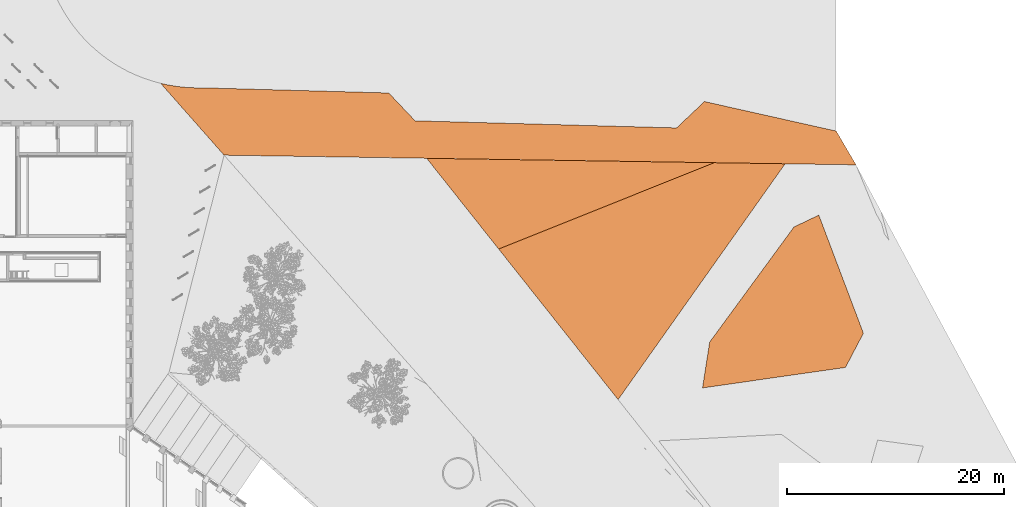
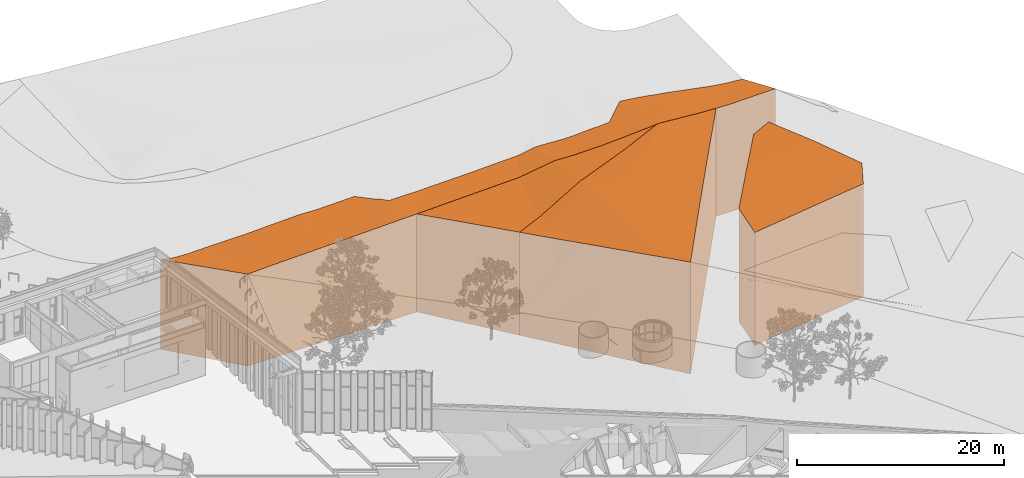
# One storey, part 244 of 246: 4 proxies.
"""IFC2X3 building model written with IfcOpenShell, lengths in millimetres."""

from ifc_helpers import new_model, entity, si_unit, converted_unit, derived_unit, money_unit, direction, frame, origin_with_axes, place, context, subcontext, project, spatial, faceted_brep, material, type_object, element, save


model = new_model("IFC2X3")

# Units and contexts
model_context = context("Model", 3, precision=0.01, world=origin_with_axes(), true_north=direction((0.0, 1.0)))
body_context = subcontext(model_context, "Body", "Model", "MODEL_VIEW")
ifc_project = project(units=[si_unit("LENGTHUNIT", "METRE", prefix="MILLI"), si_unit("AREAUNIT", "SQUARE_METRE"), si_unit("VOLUMEUNIT", "CUBIC_METRE"), converted_unit("PLANEANGLEUNIT", "DEGREE", entity("IfcPlaneAngleMeasure", 0.0174532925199), si_unit("PLANEANGLEUNIT", "RADIAN"), dimensions=[0, 0, 0, 0, 0, 0, 0]), si_unit("SOLIDANGLEUNIT", "STERADIAN"), money_unit("EUR"), converted_unit("TIMEUNIT", "Year", entity("IfcTimeMeasure", 31556926.0), si_unit("TIMEUNIT", "SECOND"), dimensions=[0, 0, 1, 0, 0, 0, 0]), si_unit("MASSUNIT", "GRAM", prefix="KILO"), si_unit("THERMODYNAMICTEMPERATUREUNIT", "DEGREE_CELSIUS"), si_unit("LUMINOUSINTENSITYUNIT", "LUMEN"), si_unit("ENERGYUNIT", "JOULE", prefix="MEGA"), derived_unit("THERMALCONDUCTANCEUNIT", [(si_unit("POWERUNIT", "WATT"), 1), (si_unit("LENGTHUNIT", "METRE"), -1), (si_unit("THERMODYNAMICTEMPERATUREUNIT", "KELVIN"), -1)]), derived_unit("SPECIFICHEATCAPACITYUNIT", [(si_unit("ENERGYUNIT", "JOULE"), 1), (si_unit("MASSUNIT", "GRAM", prefix="KILO"), -1), (si_unit("THERMODYNAMICTEMPERATUREUNIT", "KELVIN"), -1)]), derived_unit("MASSDENSITYUNIT", [(si_unit("MASSUNIT", "GRAM", prefix="KILO"), 1), (si_unit("VOLUMEUNIT", "CUBIC_METRE"), -1)])], contexts=[model_context])

# Site, building, storey
site_placement = place(None, origin_with_axes())
site = spatial("IfcSite", under=ifc_project, at=site_placement, Name="L.Koidula tn 11b", CompositionType="ELEMENT")
building_placement = place(site_placement, origin_with_axes())
building = spatial("IfcBuilding", under=site, at=building_placement, Name="Rakvere Riigigümnaasium", CompositionType="ELEMENT")
storey_placement = place(building_placement, origin_with_axes())
storey = spatial("IfcBuildingStorey", under=building, at=storey_placement, Name="1.korrus 0,00", CompositionType="ELEMENT", Elevation=0.0)

# Proxies
ifc_material_1 = material(Name="Roheala")
building_element_proxy_type_1 = type_object("IfcBuildingElementProxyType", Name="Roheala", PredefinedType="NOTDEFINED")
proxy_1_placement = place(storey_placement, frame((81352.3517408, 46387.082297, -10000.0), z_axis=(0.0, 0.0, 1.0), x_axis=(1.0, 0.0, 0.0)))
element("IfcBuildingElementProxy", 1, at=proxy_1_placement, inside=storey, type_object=building_element_proxy_type_1, material=ifc_material_1, Name="Planeeritav väljak", context=body_context, shape_type="Brep", body=[
    faceted_brep([(24817.0227167, 21771.5365046, 12791.3238978), (24832.7831979, 21771.2958002, 12791.3788711), (26421.0074362, 21747.039401, 12725.4210918), (26421.0074362, 21747.039401, 0.0), (19877.4108248, 21846.9774877, 0.0), (19877.4108248, 21846.9774877, 13082.2895138), (20107.199844, 21843.4679995, 13100.0), (20319.7864489, 21840.2212378, 13100.0), (21485.7311887, 21822.4141673, 13021.3035545), (21614.208879, 21820.451972, 13000.0), (21754.544851, 21818.3086693, 12994.2397047), (23158.0924196, 21796.8727729, 12900.0), (23197.3719018, 21796.272871, 12895.7831296), (24625.3115576, 21774.4644428, 12800.0), (24700.8339045, 21773.3110161, 12796.6667634), (24701.1256573, 21773.3065603, 12796.6546725), (24780.6877061, 21772.0914366, 12792.9682792), (24709.0430621, 21645.8113757, 12800.0), (25494.9763437, 20439.940022, 12800.0), (11026.6034065, 17.7301909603, 13173.0007679), (11014.0422284, 0.0, 13173.0000895), (11014.0422284, 0.0, 0.0), (25173.5693245, 19986.2717612, 12800.0), (24879.0692387, 19570.5828255, 12827.7368533), (24045.0707522, 18393.3881151, 12900.0), (22890.957591, 16764.3492972, 13000.0), (22514.9264319, 16233.5786799, 13007.8099496), (21448.928404, 14728.9149903, 13100.0), (20384.2060726, 13226.0519554, 13192.0797251), (20182.0431377, 12940.6975556, 13200.0), (17112.6279595, 8608.19651351, 13293.0741582), (11468.1950363, 641.039872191, 13200.0), (11260.7541777, 348.235645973, 13192.4527921), (11180.9250068, 235.556211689, 13182.419628), (11180.6552888, 235.175502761, 13182.4196115), (0.0, 13882.6827317, 0.0), (15879.9154482, 20245.298489, 12899.4842046), (0.0, 13882.6827317, 12137.6743215), (986.945373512, 14278.1227581, 12194.7497163), (2815.9967111, 15010.9699134, 12242.9709722), (8072.89543194, 17117.2548458, 12894.8586139), (8181.84884758, 17160.9092797, 12907.4463189), (8800.68938347, 17408.8605082, 12990.5254148), (9392.15141564, 17645.8419744, 12954.4755052), (15158.8966718, 19956.4074403, 12879.2687468), (15671.5027519, 20161.7936423, 12901.4294702), (15775.6508948, 20203.5227446, 12906.5554608), (16264.3383343, 17971.6247354, 13100.0), (20253.2900197, 21688.5161431, 13100.0), (21738.5410339, 21674.2812207, 13000.0), (23223.792048, 21660.0462982, 12900.0), (10055.8268898, 1239.79619194, 13100.0), (10043.8552271, 1222.87513067, 13100.0), (1924.5992945, 11456.8157487, 12300.0), (10041.6006853, 1225.71687468, 13099.8303608), (9023.24925963, 2509.30099928, 13000.0), (9013.12812807, 2522.05821006, 12999.3813461), (8000.26516354, 3798.72438727, 12900.0), (6981.28109457, 5083.10592901, 12800.0), (3840.84718326, 9041.47532023, 12500.0), (3840.41967287, 9042.01417698, 12499.8438142), (23651.3108503, 20132.7173927, 12900.0), (21952.300435, 20910.6167679, 13000.0), (22225.3377553, 19704.5472758, 13000.0), (12541.9162677, 14627.0202839, 13200.0), (9302.83631677, 4358.24161487, 13100.0), (10057.3598131, 1241.96286615, 13100.0), (2402.10851391, 13378.3271831, 12300.0), (8873.76940749, 16005.5211832, 13100.0), (9036.05837589, 2525.96926186, 13000.0), (8013.6485399, 3808.27047661, 12900.0), (6990.62101586, 5089.76790433, 12800.0), (3842.55472843, 9042.69330696, 12500.0)], [[[0, 1, 2, 3, 4, 5, 6, 7, 8, 9, 10, 11, 12, 13, 14, 15, 16]], [[1, 0, 17]], [[18, 2, 1, 17]], [[19, 20, 21, 3, 2, 18, 22, 23, 24, 25, 26, 27, 28, 29, 30, 31, 32, 33, 34]], [[21, 35, 4, 3]], [[36, 5, 4, 35, 37, 38, 39, 40, 41, 42, 43, 44, 45, 46]], [[6, 5, 36, 47]], [[7, 6, 47, 48]], [[8, 7, 48, 49]], [[9, 8, 49]], [[10, 9, 49]], [[11, 10, 49, 50]], [[12, 11, 50]], [[13, 12, 50, 17]], [[14, 13, 17]], [[15, 14, 17]], [[16, 15, 17]], [[0, 16, 17]], [[22, 18, 17]], [[20, 19, 51, 52]], [[53, 37, 35, 21, 20, 52, 54, 55, 56, 57, 58, 59, 60]], [[23, 22, 17, 50, 61]], [[24, 23, 61]], [[25, 24, 61, 62, 63]], [[26, 25, 63, 47]], [[27, 26, 47]], [[28, 27, 47]], [[29, 28, 47, 64]], [[30, 29, 64]], [[31, 30, 64]], [[32, 31, 64, 65]], [[33, 32, 65, 66]], [[34, 33, 66, 51]], [[19, 34, 51]], [[37, 53, 67, 38]], [[39, 38, 67]], [[40, 39, 67, 68]], [[41, 40, 68]], [[42, 41, 68]], [[43, 42, 68]], [[44, 43, 68, 47]], [[45, 44, 47]], [[46, 45, 47]], [[36, 46, 47]], [[47, 63, 48]], [[49, 48, 62]], [[49, 62, 61, 50]], [[54, 52, 51]], [[55, 54, 51, 69]], [[56, 55, 69]], [[57, 56, 69, 70]], [[58, 57, 70, 71]], [[59, 58, 71, 72]], [[60, 59, 72]], [[53, 60, 72, 67]], [[63, 62, 48]], [[64, 47, 68]], [[65, 64, 68]], [[65, 69, 66]], [[51, 66, 69]], [[65, 68, 67]], [[69, 65, 70]], [[70, 65, 71]], [[72, 71, 65]], [[67, 72, 65]]]),
])
proxy_2_placement = place(storey_placement, frame((100148.798622, 47463.1643258, -10000.0), z_axis=(0.0, 0.0, 1.0), x_axis=(1.0, 0.0, 0.0)))
element("IfcBuildingElementProxy", 2, at=proxy_2_placement, inside=storey, type_object=building_element_proxy_type_1, material=ifc_material_1, Name="Planeeritav väljak", context=body_context, shape_type="Brep", body=[
    faceted_brep([(12101.444684, 12301.5175342, 13100.0), (12808.3644976, 10430.0033075, 13200.0), (14841.9690642, 5046.19621206, 13229.6136489), (14841.9690642, 5046.19621206, 0.0), (10727.410028, 15939.1655149, 0.0), (10727.410028, 15939.1655149, 12905.6294669), (11394.5248784, 14173.0317643, 13000.0), (5906.51228041, 11392.5772117, 13100.0), (13186.7066089, 1887.87377253, 13274.7696108), (11151.7054574, 1596.53299922, 13297.2963122), (13186.7066089, 1887.87377253, 0.0), (0.0, 0.0, 0.0), (661.595976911, 4229.07128651, 0.0), (8431.79274257, 14841.6048484, 0.0), (8431.79274257, 14841.6048484, 12913.3669328), (8396.57258667, 14793.5011648, 12914.9343826), (7088.20316813, 13006.5304407, 13000.0), (4724.82139851, 9778.62397782, 13200.0), (10942.495054, 1566.58140894, 13297.4427405), (686.188280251, 98.2380889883, 13300.0), (0.0, 0.0, 13291.4466792), (10709.9738192, 1533.29252538, 13300.0), (250.137492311, 1598.93548832, 13300.0), (661.595976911, 4229.07128651, 13300.0), (1719.29266997, 5673.67326917, 13300.0)], [[[0, 1, 2, 3, 4, 5, 6]], [[0, 7, 1]], [[8, 2, 1, 9]], [[2, 8, 10, 3]], [[3, 10, 11, 12, 13, 4]], [[14, 5, 4, 13]], [[6, 5, 14, 15]], [[0, 6, 16]], [[7, 0, 16]], [[1, 7, 17]], [[18, 9, 1, 17]], [[19, 20, 11, 10, 8, 9, 18, 21]], [[22, 23, 12, 11, 20]], [[15, 14, 13, 12, 23, 24, 17, 7, 16]], [[15, 16, 6]], [[21, 18, 17, 24]], [[20, 19, 22]], [[19, 21, 24, 23, 22]]]),
])
ifc_material_2 = material(Name="Sillutiskivi-2")
building_element_proxy_type_2 = type_object("IfcBuildingElementProxyType", Name="Sillutiskivi-2", PredefinedType="NOTDEFINED")
proxy_3_placement = place(storey_placement, frame((50173.2671368, 68034.3388245, -10000.0), z_axis=(0.0, 0.0, 1.0), x_axis=(1.0, 0.0, 0.0)))
element("IfcBuildingElementProxy", 3, at=proxy_3_placement, inside=storey, type_object=building_element_proxy_type_2, material=ifc_material_2, Name="Väljak", context=body_context, shape_type="Brep", body=[
    faceted_brep([(2824.69924275, 4327.15722616, 10699.3799152), (3043.49043374, 4079.37487725, 10708.0756723), (5182.92692048, 4079.32841576, 10709.0082275), (4994.51219159, 7076.73305954, 10604.8859857), (4882.8206809, 7079.82902056, 10604.7299237), (2766.84917014, 4392.67278377, 10693.9130267), (329.42707321, 7153.06807095, 10594.9400707), (313.308466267, 7171.32249094, 10595.4462081), (313.282985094, 7171.35134852, 10595.4476806), (313.270529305, 7171.36545478, 10595.4484042), (292.601942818, 7194.77275416, 10596.1602108), (286.251026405, 7201.96520546, 10596.3801947), (0.0, 7526.14622656, 10572.5772275), (0.0, 7526.14622656, 0.0), (5855.92086401, 894.28038129, 0.0), (5855.92086401, 894.28038129, 10809.8860905), (5358.70308264, 1457.38253012, 10800.4663736), (5356.12070789, 1460.30708517, 10800.3117106), (5346.90035982, 1470.7491852, 10799.6236599), (4428.14055666, 2511.25022681, 10766.5567717), (8658.13641798, 6975.18158325, 10700.4100973), (8848.15351857, 6969.9145264, 10709.3233122), (8854.19220773, 6969.74714084, 10709.6970087), (8862.77811026, 6969.50914943, 10709.9024582), (9118.73371737, 6962.41435254, 10720.1613628), (15025.377955, 6798.68892515, 11048.9227947), (16702.068801, 6752.21297125, 11005.2010396), (19282.2414091, 6680.6935355, 11099.022593), (19304.3818493, 6680.07982781, 11099.9434935), (19306.8888887, 6680.01028463, 11100.0184497), (19307.2151746, 6680.00129127, 11100.028254), (21041.2844853, 6631.9348719, 11186.7269787), (21041.2844853, 6631.9348719, 0.0), (3804.6752208, 7109.71398047, 0.0), (3804.6752208, 7109.71398047, 10570.5938406), (1353.45980196, 7054.30598368, 10500.0), (3631.52823974, 7105.89032096, 10565.6021589), (3245.72334146, 7107.45955747, 10553.9058719), (2860.09046149, 7119.08555972, 10541.6427419), (2831.75889162, 7120.67975745, 10540.6997037), (1215.63723811, 7283.52288787, 10500.0), (943.665945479, 7327.55168475, 10524.1617118), (835.986376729, 7347.87746884, 10533.5566323), (834.949453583, 7348.07320027, 10533.6569019), (834.443476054, 7348.16870948, 10533.7058836), (564.552830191, 7399.11374074, 10557.5431912), (408.551066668, 7432.79478979, 10571.0798607), (349.87374539, 7445.46332438, 10576.1797607), (187.434056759, 7480.53433253, 10574.7001234), (187.434056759, 7480.53433253, 0.0), (564.552830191, 7399.11374074, 0.0), (943.665945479, 7327.55168475, 0.0), (1324.51572906, 7265.89680346, 0.0), (1706.84332701, 7214.19100213, 0.0), (2090.38888095, 7172.46942388, 0.0), (2474.89170471, 7140.76042581, 0.0), (2860.09046149, 7119.08555972, 0.0), (3245.72334146, 7107.45955747, 0.0), (3631.52823974, 7105.89032096, 0.0), (23472.59543, 4065.08328021, 0.0), (47587.9940034, 3411.11960076, 0.0), (50154.8455956, 5842.43054502, 0.0), (62307.6972974, 3118.76461562, 0.0), (64133.5258371, 0.0, 0.0), (64133.5258371, 0.0, 12800.0512487), (64133.3863867, 0.00213989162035, 12800.0), (63594.4943606, 8.27153543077, 12800.0), (58964.6645633, 79.3171104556, 12670.7840627), (58946.7357328, 79.5922316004, 12669.4856896), (56012.4399934, 124.61953006, 12791.3390058), (55996.607607, 124.862480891, 12791.2837), (55960.1057398, 125.42260864, 12792.935554), (55880.1730538, 126.649190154, 12796.6389513), (55879.8799286, 126.653688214, 12796.6510984), (55803.9990377, 127.818094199, 12800.0), (54376.3188528, 149.726104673, 12895.7611591), (54336.8333333, 150.332017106, 12900.0), (52933.7195604, 171.863051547, 12994.2072729), (52792.5846412, 174.02879239, 13000.0), (52663.3580512, 176.011797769, 13021.4263942), (51499.2700306, 193.874938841, 13100.0), (51287.1953689, 197.129262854, 13100.0), (46776.9314504, 266.340077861, 12752.3566217), (46579.6417051, 269.36752466, 12758.0764121), (46374.7382347, 272.511805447, 12742.0436052), (45234.7274247, 290.005477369, 12658.9743492), (41943.3922563, 340.511610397, 12569.2724312), (39739.5625818, 374.329775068, 12630.6863981), (36419.5380687, 425.276151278, 12088.8891879), (35819.8863523, 434.477915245, 12000.0), (35636.7174489, 437.288675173, 11990.5634167), (31023.4719624, 508.079760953, 11808.6695332), (28705.1796028, 543.654376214, 11715.898017), (23475.4722808, 623.905180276, 11503.4345727), (23409.7444184, 624.913786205, 11500.3196563), (23401.7681396, 625.036183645, 11500.0), (23167.4887576, 628.631243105, 11494.7405649), (23071.9398015, 630.097459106, 11491.8456834), (22537.4952236, 638.298607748, 11471.2033544), (20707.9078429, 666.37395678, 11400.4165283), (20704.7739551, 666.422046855, 11400.4165283), (20693.4287884, 666.596140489, 11400.1019881), (20566.9379754, 668.537164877, 11391.8613309), (20281.2105921, 672.921703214, 11384.2552166), (19936.15607, 678.21662722, 11370.9578206), (12926.2419541, 785.785026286, 11100.0), (12905.0875347, 786.109644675, 11100.0), (12607.7307427, 790.672638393, 11088.5627633), (12584.426248, 791.030250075, 11087.5916777), (8225.97074734, 857.911537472, 10935.4821426), (7766.76384104, 864.958150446, 10902.9874801), (7701.87227749, 865.953923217, 10900.0), (7688.31785527, 866.161918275, 10900.0), (7671.19647491, 866.424648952, 10900.0), (7416.12299176, 870.338797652, 10883.7306417), (7732.30349249, 916.828156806, 10900.0), (8087.09040987, 1585.589461, 10900.0), (9337.29447655, 4079.23819662, 10897.279658), (9448.86337448, 4152.48530883, 10900.0), (9644.43031611, 4079.23152664, 10908.9440352), (14673.5614631, 4119.69258888, 11100.0), (19306.6106086, 6678.56199384, 11100.0), (21041.5705368, 6631.63287359, 11186.7416789), (21297.0995077, 6361.85868153, 11206.4398287), (22228.3519925, 5378.69076219, 11278.2188094), (22441.7776827, 5153.3670232, 11296.7106511), (22570.4467634, 5017.52490264, 11317.6445915), (22865.0961584, 4706.44940226, 11400.4022622), (22865.2353802, 4706.30241912, 11400.4165283), (22903.2087154, 4666.21214765, 11401.7432173), (23255.8697902, 4293.89093424, 11404.6805886), (23270.9675877, 4277.95146519, 11406.8017481), (23459.478446, 4078.93150943, 11421.1977988), (23472.59543, 4065.08328021, 11421.8086667), (2474.89170471, 7140.76042581, 10531.5455734), (2090.38888095, 7172.46942388, 10521.8697503), (1717.84806876, 7212.99392087, 10512.6771023), (1215.78312792, 7283.49927011, 10500.0), (1324.51572906, 7265.89680346, 10502.6872743), (1661.44727888, 7220.33034195, 10511.1620322), (1706.84332701, 7214.19100213, 10512.3782014), (26913.7570586, 3971.76553083, 11500.0), (27035.9610547, 3968.4515912, 11504.9569761), (28039.301916, 3941.24289799, 11553.0874841), (28247.8957853, 3935.58622954, 11561.6602941), (31814.8378915, 3838.85755317, 11706.0857039), (32128.6547901, 3830.34743657, 11718.6069281), (37556.7503043, 3683.14784389, 12000.0), (37679.6694719, 3679.81449079, 12008.2851557), (38780.6661173, 3649.95755871, 12231.9583232), (39383.9932339, 3633.5964764, 12346.3017639), (39570.0964614, 3628.54971132, 12376.8245052), (42953.4980381, 3536.79830454, 12285.7071622), (43433.6505139, 3523.77748389, 12299.3407501), (45509.9252074, 3467.47286864, 12452.3741149), (45881.6042891, 3457.39363984, 12481.7617058), (46239.0408195, 3447.70064191, 12471.791724), (47037.6364728, 3426.04424879, 12534.0545622), (47587.9940034, 3411.11960076, 12578.744897), (48292.4657151, 4078.39221898, 12587.4320604), (50154.8455956, 5842.43054502, 12666.3022844), (50370.6410799, 5794.06701497, 12685.2978747), (51718.8888728, 5491.90118033, 12737.4847147), (51810.9749613, 5471.26308254, 12734.9449685), (52814.9727405, 5246.24967733, 12743.1245017), (53487.5313173, 5095.51757542, 12710.3391029), (53946.8479918, 4992.57670132, 12696.218789), (54406.8638074, 4889.47913749, 12714.9859763), (55229.3959974, 4705.13533435, 12685.1293915), (55739.2562096, 4590.86677232, 12670.0440412), (55746.2248717, 4589.30497363, 12669.808641), (56132.9063812, 4502.64290628, 12655.482569), (58026.8335048, 4078.18082067, 12581.0584193), (58182.8538409, 4043.21394342, 12574.7790633), (59171.5875348, 3821.62148583, 12536.1759155), (59570.0016411, 3732.32993898, 12543.4792695), (59814.4018642, 3677.55558829, 12534.7249411), (59849.0669343, 3669.78654178, 12537.6313091), (60556.20914, 3511.30364574, 12563.8326536), (60786.7116632, 3459.64401189, 12578.6500855), (60908.9314021, 3432.25243773, 12587.3571492), (62307.6972974, 3118.76461562, 12693.3997225), (63359.6821165, 1321.83080799, 12756.2054956), (63908.6916247, 384.047554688, 12792.3189344), (63916.0365649, 371.501393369, 12792.8506305), (63986.0983311, 251.8263239, 12800.0), (64133.0601508, 0.795455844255, 12800.0), (55634.7811427, 4078.23276815, 12692.9539277), (55626.4722322, 4078.23294859, 12693.3019212), (55625.4546059, 4078.23297069, 12693.3445414), (53776.3421878, 3243.3034061, 12800.0), (53195.4554421, 2527.37305826, 12900.0), (52021.522394, 1080.52597369, 13000.0), (51730.9229925, 722.368497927, 13100.0), (51383.424511, 294.084137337, 13100.0), (36100.124509, 958.641751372, 12000.0), (37418.9821654, 3425.46317641, 12000.0), (23280.9904104, 4078.9353856, 11417.254258), (22086.9903006, 3272.37963134, 11400.4165283), (21007.8066057, 1237.7437768, 11400.4165283), (20119.4217339, 4079.00404443, 11243.5354285), (14762.7352729, 4079.12037396, 11104.2292784), (13821.9888832, 2514.43758558, 11100.0), (7750.03585274, 916.22772262, 10900.0), (22500.906442, 4078.95232645, 11399.5065037), (22510.6120329, 4071.05363782, 11400.4165283), (50971.5632926, 4078.33403783, 12799.8497179), (52363.8347225, 4078.3038023, 12797.0348172), (53231.8151363, 4078.28495263, 12749.8309066), (53899.594535, 4078.27045067, 12765.5453683), (54999.1299211, 4078.24657239, 12717.0699284), (54999.1768239, 4078.24657137, 12717.0678606)], [[[0, 1, 2, 3, 4]], [[0, 5, 6, 7, 8, 9, 10, 11, 12, 13, 14, 15, 16, 17, 18, 19, 1]], [[1, 19, 2]], [[3, 2, 20]], [[4, 3, 20, 21, 22, 23, 24, 25, 26, 27, 28, 29, 30, 31, 32, 33, 34]], [[35, 5, 0, 4, 34, 36, 37, 38, 39]], [[5, 35, 6]], [[35, 40, 41, 42, 7, 6]], [[8, 7, 42, 43]], [[9, 8, 43, 44]], [[10, 9, 44, 45, 46]], [[11, 10, 46, 47]], [[48, 12, 11, 47]], [[49, 13, 12, 48]], [[14, 13, 49, 50, 51, 52, 53, 54, 55, 56, 57, 58, 33, 32, 59, 60, 61, 62, 63]], [[15, 14, 63, 64, 65, 66, 67, 68, 69, 70, 71, 72, 73, 74, 75, 76, 77, 78, 79, 80, 81, 82, 83, 84, 85, 86, 87, 88, 89, 90, 91, 92, 93, 94, 95, 96, 97, 98, 99, 100, 101, 102, 103, 104, 105, 106, 107, 108, 109, 110, 111, 112, 113, 114]], [[15, 114, 115, 16]], [[17, 16, 115, 116]], [[2, 18, 17, 116]], [[2, 19, 18]], [[2, 117, 21, 20]], [[117, 118, 22, 21]], [[118, 119, 23, 22]], [[119, 120, 24, 23]], [[25, 24, 120]], [[120, 26, 25]], [[120, 121, 27, 26]], [[28, 27, 121]], [[28, 121, 29]], [[121, 30, 29]], [[121, 122, 31, 30]], [[59, 32, 31, 122, 123, 124, 125, 126, 127, 128, 129, 130, 131, 132, 133]], [[33, 58, 36, 34]], [[58, 57, 37, 36]], [[57, 56, 38, 37]], [[56, 55, 134, 39, 38]], [[35, 39, 134, 135, 136]], [[35, 137, 40]], [[40, 137, 138, 52, 51, 41]], [[51, 50, 45, 44, 43, 42, 41]], [[50, 49, 48, 47, 46, 45]], [[53, 52, 138, 139, 140]], [[54, 53, 140, 136, 135]], [[55, 54, 135, 134]], [[60, 59, 133, 141, 142, 143, 144, 145, 146, 147, 148, 149, 150, 151, 152, 153, 154, 155, 156, 157, 158]], [[61, 60, 158, 159, 160]], [[61, 160, 161, 162, 163, 164, 165, 166, 167, 168, 169, 170, 171, 172, 173, 174, 175, 176, 177, 178, 179, 180, 181, 62]], [[64, 63, 62, 181, 182, 183, 184, 185, 186]], [[186, 65, 64]], [[65, 186, 185, 66]], [[67, 66, 185, 184, 178, 177]], [[68, 67, 177, 176]], [[69, 68, 176, 175]], [[70, 69, 175, 174]], [[71, 70, 174, 173]], [[72, 71, 173, 172, 187]], [[73, 72, 187, 188, 189]], [[74, 73, 189, 190]], [[75, 74, 190]], [[76, 75, 190, 191]], [[77, 76, 191]], [[78, 77, 191, 192]], [[79, 78, 192, 193]], [[193, 80, 79]], [[194, 81, 80, 193]], [[82, 81, 194, 157, 156]], [[83, 82, 156, 155]], [[84, 83, 155, 154]], [[85, 84, 154, 153]], [[86, 85, 153, 152]], [[87, 86, 152, 151]], [[88, 87, 151, 150, 195]], [[195, 89, 88]], [[90, 89, 195, 196, 147, 146]], [[91, 90, 146, 145]], [[92, 91, 145, 144]], [[93, 92, 144, 143]], [[94, 93, 143, 142]], [[95, 94, 142, 141]], [[96, 95, 141, 133, 132, 197]], [[198, 97, 96, 197]], [[199, 98, 97, 198]], [[199, 99, 98]], [[100, 99, 199]], [[101, 100, 199]], [[102, 101, 199, 200]], [[103, 102, 200, 201]], [[104, 103, 201, 202]], [[105, 104, 202]], [[106, 105, 202]], [[107, 106, 202, 120, 119, 118, 116]], [[108, 107, 116]], [[109, 108, 116]], [[110, 109, 116, 203]], [[203, 111, 110]], [[112, 111, 203]], [[113, 112, 203, 116, 115]], [[114, 113, 115]], [[2, 116, 117]], [[116, 118, 117]], [[121, 120, 201, 200]], [[122, 121, 123]], [[123, 121, 124]], [[121, 200, 125, 124]], [[200, 204, 126, 125]], [[126, 204, 127]], [[127, 204, 205, 128]], [[128, 205, 197, 129]], [[130, 129, 197]], [[130, 197, 131]], [[132, 131, 197]], [[139, 35, 136, 140]], [[137, 35, 139, 138]], [[147, 196, 148]], [[196, 149, 148]], [[196, 195, 150, 149]], [[157, 194, 206, 159, 158]], [[159, 206, 161, 160]], [[161, 206, 162]], [[162, 206, 163]], [[164, 163, 206, 207]], [[165, 164, 207, 208]], [[166, 165, 208]], [[208, 209, 167, 166]], [[210, 211, 168, 167, 209, 190]], [[211, 189, 188, 169, 168]], [[188, 187, 170, 169]], [[171, 170, 187]], [[187, 172, 171]], [[178, 184, 183, 179]], [[183, 182, 180, 179]], [[182, 181, 180]], [[211, 210, 190, 189]], [[191, 190, 208, 207]], [[206, 192, 191, 207]], [[206, 193, 192]], [[194, 193, 206]], [[205, 198, 197]], [[200, 199, 198, 205, 204]], [[120, 202, 201]], [[208, 190, 209]]]),
])
ifc_material_3 = material(Name="Sillutiskivi-3")
building_element_proxy_type_3 = type_object("IfcBuildingElementProxyType", Name="Sillutiskivi-3", PredefinedType="NOTDEFINED")
proxy_4_placement = place(storey_placement, frame((74712.4497369, 60269.7650286, -10000.0), z_axis=(0.0, 0.0, 1.0), x_axis=(1.0, 0.0, 0.0)))
element("IfcBuildingElementProxy", 4, at=proxy_4_placement, inside=storey, type_object=building_element_proxy_type_3, material=ifc_material_3, Name="Planeeritav väljak", context=body_context, shape_type="Brep", body=[
    faceted_brep([(22040.738799, 8032.66392205, 12758.1871276), (22237.9622368, 8029.65179674, 12752.4679245), (26517.3128287, 7964.294756, 13082.2895138), (26517.3128287, 7964.294756, 0.0), (0.0, 8369.28449862, 0.0), (0.0, 8369.28449862, 11546.7642331), (4166.34412548, 8305.65336653, 11716.0150984), (6483.72087998, 8270.26087328, 11808.7432249), (11099.7059645, 8199.76253043, 11990.7317287), (11279.6147655, 8197.01484557, 12000.0), (11881.5703006, 8187.82138699, 12089.227262), (15200.4721884, 8137.13294695, 12630.8245246), (17403.7034956, 8103.48375761, 12569.4145248), (20696.3147799, 8053.19684486, 12659.1280915), (21835.9057147, 8035.79226687, 12742.1608647), (22415.5528987, 6320.84001289, 12906.5554608), (22519.8174521, 6362.61575738, 12899.4842046), (7626.84737739, 395.44002647, 12194.7497163), (6639.90200388, 0.0, 12137.6743215), (6639.90200388, 0.0, 0.0), (22311.4047557, 6279.11091064, 12901.4294702), (21798.7986757, 6073.72470864, 12879.2687468), (16032.0534195, 3763.15924274, 12954.4755052), (15440.5913874, 3526.17777656, 12990.5254148), (14821.7508515, 3278.22654799, 12907.4463189), (14712.7974358, 3234.5721141, 12894.8586139), (9455.89871498, 1128.28718171, 12242.9709722), (4995.80440091, 2072.30778025, 11999.0217274), (5010.72780693, 2053.49752814, 12000.2655592), (5006.36648816, 2058.99476553, 12000.0), (5008.30222432, 2060.3755202, 12000.0), (11219.260665, 8084.12716025, 12000.0)], [[[0, 1, 2, 3, 4, 5, 6, 7, 8, 9, 10, 11, 12, 13, 14]], [[15, 16, 1, 0]], [[16, 2, 1]], [[17, 18, 19, 3, 2, 16, 15, 20, 21, 22, 23, 24, 25, 26]], [[19, 4, 3]], [[27, 5, 4, 19, 18, 28, 29]], [[5, 27, 30, 6]], [[7, 6, 30]], [[8, 7, 30, 31]], [[9, 8, 31]], [[25, 24, 10, 9, 31]], [[24, 23, 11, 10]], [[12, 11, 23, 22]], [[22, 21, 13, 12]], [[21, 20, 14, 13]], [[20, 15, 0, 14]], [[18, 17, 30, 28]], [[26, 25, 31]], [[17, 26, 31, 30]], [[29, 28, 30]], [[27, 29, 30]]]),
])

save(model, "model.ifc")
